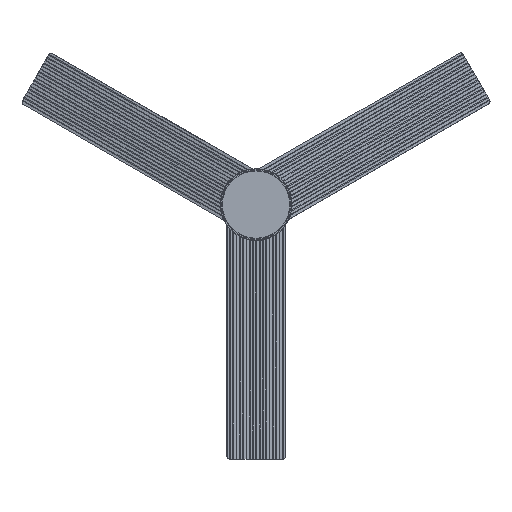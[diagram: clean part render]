
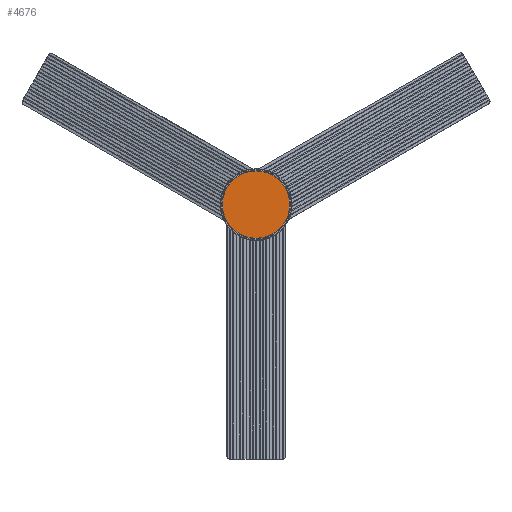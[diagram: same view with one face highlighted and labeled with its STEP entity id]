
A CAD part, top view. The second image highlights one B-rep face of the part: STEP entity #4676.
In plain terms, the highlighted planar face has unit normal (0, 0, 1).
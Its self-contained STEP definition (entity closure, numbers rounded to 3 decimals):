
#431=FACE_OUTER_BOUND('',#689,.T.);
#689=EDGE_LOOP('',(#3469,#3470));
#1732=CIRCLE('',#5001,70.091);
#1734=CIRCLE('',#5004,70.091);
#1966=VERTEX_POINT('',#8406);
#1967=VERTEX_POINT('',#8407);
#2514=EDGE_CURVE('',#1966,#1967,#1732,.T.);
#2518=EDGE_CURVE('',#1967,#1966,#1734,.T.);
#3469=ORIENTED_EDGE('',*,*,#2518,.T.);
#3470=ORIENTED_EDGE('',*,*,#2514,.T.);
#4472=PLANE('',#5007);
#4676=ADVANCED_FACE('',(#431),#4472,.T.);
#5001=AXIS2_PLACEMENT_3D('',#8408,#5706,#5707);
#5004=AXIS2_PLACEMENT_3D('',#8415,#5714,#5715);
#5007=AXIS2_PLACEMENT_3D('',#8418,#5720,#5721);
#5706=DIRECTION('center_axis',(0.,0.,1.));
#5707=DIRECTION('ref_axis',(0.,-1.,0.));
#5714=DIRECTION('center_axis',(0.,0.,1.));
#5715=DIRECTION('ref_axis',(0.,-1.,0.));
#5720=DIRECTION('center_axis',(0.,0.,1.));
#5721=DIRECTION('ref_axis',(1.,0.,0.));
#8406=CARTESIAN_POINT('',(0.,-70.091,261.084));
#8407=CARTESIAN_POINT('',(0.,70.091,261.084));
#8408=CARTESIAN_POINT('Origin',(0.,0.,261.084));
#8415=CARTESIAN_POINT('Origin',(0.,0.,261.084));
#8418=CARTESIAN_POINT('Origin',(0.,-70.091,261.084));
